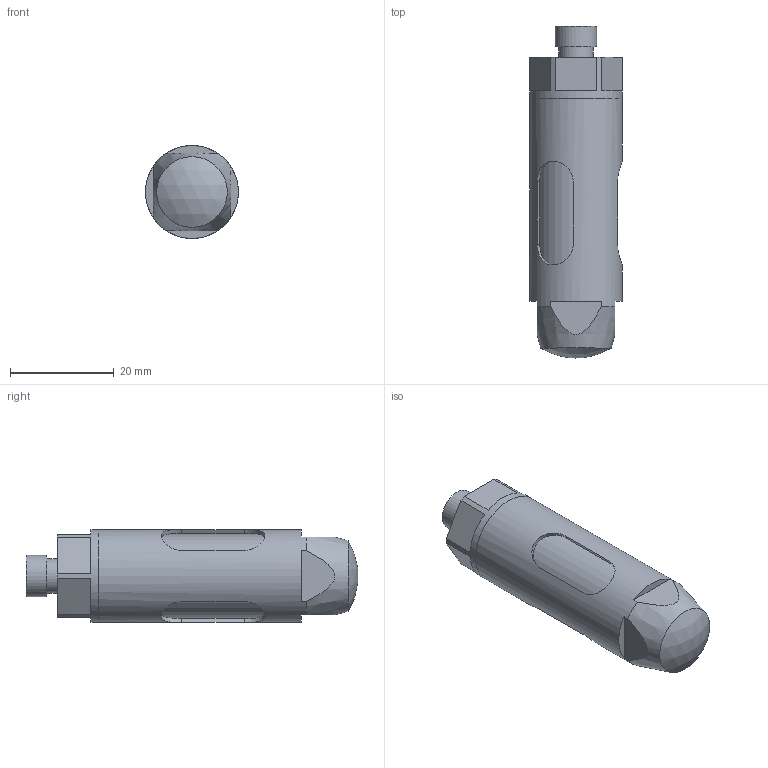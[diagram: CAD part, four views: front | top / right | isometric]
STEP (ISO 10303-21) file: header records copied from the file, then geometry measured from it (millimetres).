
FILE_DESCRIPTION(/* description */ (''),/* implementation_level */ '2;1');
FILE_NAME(/* name */ 'T:\Anwender\Praktikant\Tobias Könemund\Innengreifer\Parametrisch\G-GI018_vereinfacht.stp',/* time_stamp */ '2015-10-30T08:18:55+01:00',/* author */ ('Praktikant'),/* organization */ ('GRIP GmbH'),/* preprocessor_version */ 'ST-DEVELOPER v15.2',/* originating_system */ 'Autodesk Inventor 2014',/* authorisation */ '');
FILE_SCHEMA (('AUTOMOTIVE_DESIGN { 1 0 10303 214 3 1 1 }'));
Length unit declared in the file: millimetre
Products named in the file (3): G-GI018-2.1-1 Dorn_vereinfacht-03; G-GI018-1.1-1 Hülse_vereinfacht-16; Baugruppe_vereinfacht
Bounding box: 17.9 x 63.92 x 17.9 mm (x, y, z)
Volume: 12935.5 mm3; surface area: 7303.4 mm2
Topology: 2 solids, 2 shells, 49 faces, 125 edges, 83 vertices
Faces by surface type: plane 33, cylinder 13, cone 2, sphere 1
Full cylindrical faces by diameter (mm): 5 x1, 6.6 x1, 8 x1, 16 x1, 16.3 x1, 17.9 x2
Entity records: 1640 total; most frequent: CARTESIAN_POINT 452, DIRECTION 234, ORIENTED_EDGE 218, EDGE_CURVE 109, AXIS2_PLACEMENT_3D 87, VERTEX_POINT 77, EDGE_LOOP 68, LINE 60
